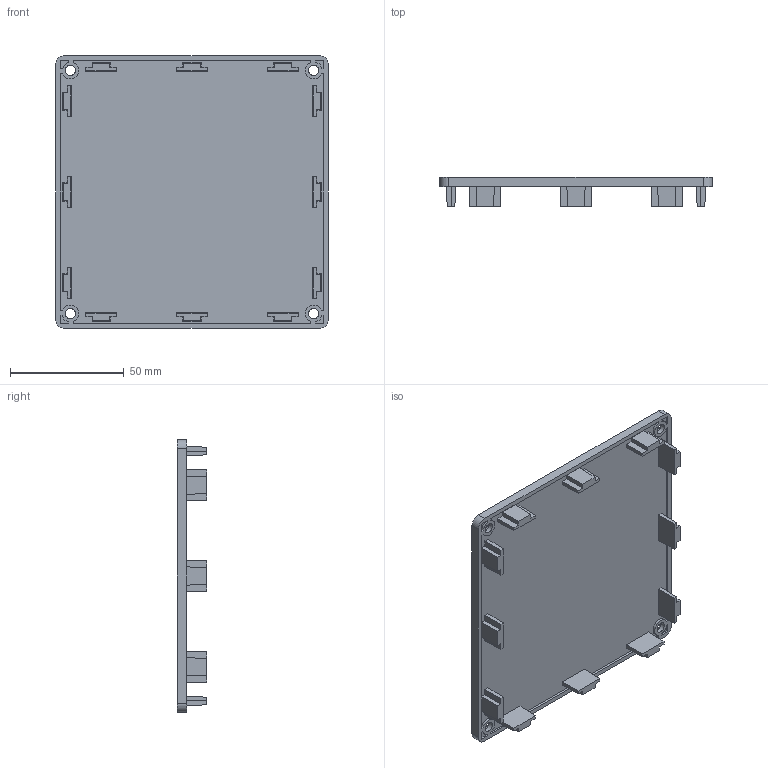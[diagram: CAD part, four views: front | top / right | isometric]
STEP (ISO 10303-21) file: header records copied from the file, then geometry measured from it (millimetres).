
FILE_DESCRIPTION(/* description */ ('STEP AP214'),/* implementation_level */ '2;1');
FILE_NAME(/* name */ '091246',/* time_stamp */ '2023-08-29T08:52:14+02:00',/* author */ ('License CC BY-ND 4.0'),/* organization */ ('CADENAS'),/* preprocessor_version */ 'ST-DEVELOPER v19.3',/* originating_system */ 'PARTsolutions',/* authorisation */ ' ');
FILE_SCHEMA (('AUTOMOTIVE_DESIGN {1 0 10303 214 3 1 1}'));
Length unit declared in the file: millimetre
Products named in the file (1): 091246
Bounding box: 120 x 12.8 x 120 mm (x, y, z)
Volume: 48182.2 mm3; surface area: 35384.9 mm2
Topology: 1 solids, 1 shells, 171 faces, 448 edges, 300 vertices
Faces by surface type: plane 151, cylinder 20
Full cylindrical faces by diameter (mm): 4.5 x4, 8.2 x4
Entity records: 5164 total; most frequent: CARTESIAN_POINT 904, ORIENTED_EDGE 872, DIRECTION 820, EDGE_CURVE 436, LINE 396, VECTOR 396, VERTEX_POINT 296, AXIS2_PLACEMENT_3D 212
